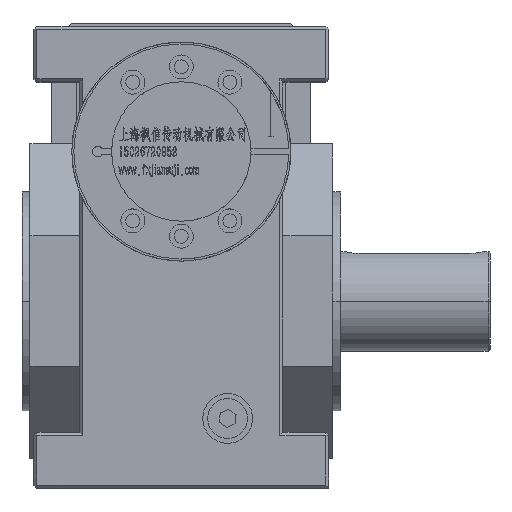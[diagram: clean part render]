
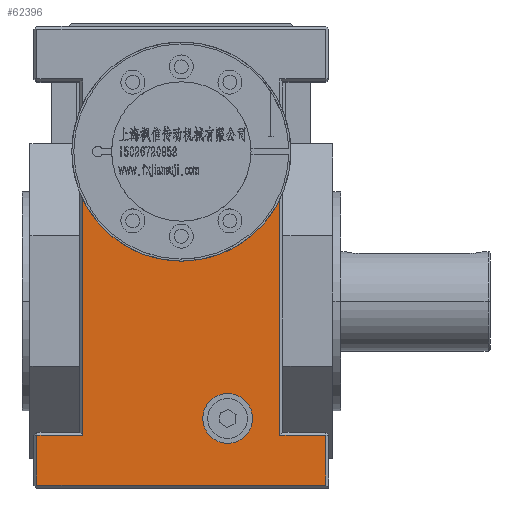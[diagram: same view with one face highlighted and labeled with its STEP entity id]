
A CAD part, top view. The second image highlights one B-rep face of the part: STEP entity #62396.
In plain terms, the highlighted planar face has unit normal (0, 0, 1).
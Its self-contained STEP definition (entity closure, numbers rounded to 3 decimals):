
#1253 = CARTESIAN_POINT ( 'NONE',  ( 74., -67.5, 104. ) ) ;
#2407 = CARTESIAN_POINT ( 'NONE',  ( 23.262, -59., 104. ) ) ;
#3503 = VECTOR ( 'NONE', #87144, 1000. ) ;
#7195 = CARTESIAN_POINT ( 'NONE',  ( 72.5, -67.5, 104. ) ) ;
#7236 = DIRECTION ( 'NONE',  ( 0., -1., 0. ) ) ;
#10324 = ORIENTED_EDGE ( 'NONE', *, *, #26118, .T. ) ;
#10579 = CARTESIAN_POINT ( 'NONE',  ( 49.5, -67.5, 104. ) ) ;
#13549 = VERTEX_POINT ( 'NONE', #92321 ) ;
#13883 = ORIENTED_EDGE ( 'NONE', *, *, #105344, .T. ) ;
#14148 = ORIENTED_EDGE ( 'NONE', *, *, #15056, .T. ) ;
#15056 = EDGE_CURVE ( 'NONE', #51326, #82119, #95753, .T. ) ;
#15226 = CARTESIAN_POINT ( 'NONE',  ( 23.262, -59., 104. ) ) ;
#15440 = EDGE_LOOP ( 'NONE', ( #67681, #87657, #13883, #66103, #87727, #57809, #10324, #14148 ) ) ;
#15562 = FACE_OUTER_BOUND ( 'NONE', #15440, .T. ) ;
#16033 = VERTEX_POINT ( 'NONE', #24619 ) ;
#17807 = DIRECTION ( 'NONE',  ( -1., 0., 0. ) ) ;
#21689 = CARTESIAN_POINT ( 'NONE',  ( -49.5, 51.026, 104. ) ) ;
#22065 = EDGE_CURVE ( 'NONE', #64114, #13549, #53543, .T. ) ;
#22297 = EDGE_LOOP ( 'NONE', ( #45594, #104424 ) ) ;
#24619 = CARTESIAN_POINT ( 'NONE',  ( 49.5, 51.026, 104. ) ) ;
#25269 = FACE_BOUND ( 'NONE', #22297, .T. ) ;
#25300 = CARTESIAN_POINT ( 'NONE',  ( 0., 75., 104. ) ) ;
#25516 = EDGE_CURVE ( 'NONE', #35569, #16033, #51097, .T. ) ;
#26118 = EDGE_CURVE ( 'NONE', #102395, #51326, #77193, .T. ) ;
#27109 = DIRECTION ( 'NONE',  ( 0., 1., 0. ) ) ;
#28523 = VECTOR ( 'NONE', #61928, 1000. ) ;
#29228 = VERTEX_POINT ( 'NONE', #7195 ) ;
#29282 = LINE ( 'NONE', #56754, #85052 ) ;
#29795 = EDGE_CURVE ( 'NONE', #48105, #16033, #105020, .T. ) ;
#33866 = PLANE ( 'NONE',  #103948 ) ;
#35440 = VERTEX_POINT ( 'NONE', #61809 ) ;
#35569 = VERTEX_POINT ( 'NONE', #21689 ) ;
#37357 = DIRECTION ( 'NONE',  ( 0., 0., 1. ) ) ;
#44928 = EDGE_CURVE ( 'NONE', #35569, #102395, #67367, .T. ) ;
#45594 = ORIENTED_EDGE ( 'NONE', *, *, #58042, .F. ) ;
#47419 = CARTESIAN_POINT ( 'NONE',  ( 10.762, -59., 104. ) ) ;
#48105 = VERTEX_POINT ( 'NONE', #10579 ) ;
#48154 = DIRECTION ( 'NONE',  ( 0., 1., 0. ) ) ;
#49746 = DIRECTION ( 'NONE',  ( 1., 0., 0. ) ) ;
#51097 = CIRCLE ( 'NONE', #62013, 55. ) ;
#51139 = CARTESIAN_POINT ( 'NONE',  ( -72.5, -67.5, 104. ) ) ;
#51326 = VERTEX_POINT ( 'NONE', #51139 ) ;
#52187 = CARTESIAN_POINT ( 'NONE',  ( -72.5, 138., 104. ) ) ;
#53543 = CIRCLE ( 'NONE', #92017, 12.5 ) ;
#54476 = LINE ( 'NONE', #1253, #28523 ) ;
#54483 = CARTESIAN_POINT ( 'NONE',  ( -72.5, -92.5, 104. ) ) ;
#56754 = CARTESIAN_POINT ( 'NONE',  ( 72.5, -66., 104. ) ) ;
#57809 = ORIENTED_EDGE ( 'NONE', *, *, #44928, .T. ) ;
#58042 = EDGE_CURVE ( 'NONE', #13549, #64114, #91281, .T. ) ;
#59388 = CARTESIAN_POINT ( 'NONE',  ( -74., -67.5, 104. ) ) ;
#60227 = DIRECTION ( 'NONE',  ( 0., 0., 1. ) ) ;
#61809 = CARTESIAN_POINT ( 'NONE',  ( 72.5, -92.5, 104. ) ) ;
#61928 = DIRECTION ( 'NONE',  ( -1., 0., 0. ) ) ;
#62013 = AXIS2_PLACEMENT_3D ( 'NONE', #25300, #60227, #80275 ) ;
#62396 = ADVANCED_FACE ( 'NONE', ( #25269, #15562 ), #33866, .F. ) ;
#63837 = AXIS2_PLACEMENT_3D ( 'NONE', #15226, #69016, #106227 ) ;
#64114 = VERTEX_POINT ( 'NONE', #47419 ) ;
#66103 = ORIENTED_EDGE ( 'NONE', *, *, #29795, .T. ) ;
#67367 = LINE ( 'NONE', #75984, #102043 ) ;
#67681 = ORIENTED_EDGE ( 'NONE', *, *, #100348, .T. ) ;
#68005 = DIRECTION ( 'NONE',  ( -1., 0., 0. ) ) ;
#69016 = DIRECTION ( 'NONE',  ( 0., 0., 1. ) ) ;
#69368 = CARTESIAN_POINT ( 'NONE',  ( 74., 138., 104. ) ) ;
#70313 = VECTOR ( 'NONE', #49746, 1000. ) ;
#75984 = CARTESIAN_POINT ( 'NONE',  ( -49.5, -66., 104. ) ) ;
#76813 = VECTOR ( 'NONE', #68005, 1000. ) ;
#77193 = LINE ( 'NONE', #59388, #76813 ) ;
#80275 = DIRECTION ( 'NONE',  ( 0., 1., 0. ) ) ;
#82119 = VERTEX_POINT ( 'NONE', #54483 ) ;
#85052 = VECTOR ( 'NONE', #48154, 1000. ) ;
#87127 = DIRECTION ( 'NONE',  ( 0., 0., -1. ) ) ;
#87144 = DIRECTION ( 'NONE',  ( 0., -1., 0. ) ) ;
#87657 = ORIENTED_EDGE ( 'NONE', *, *, #103652, .T. ) ;
#87727 = ORIENTED_EDGE ( 'NONE', *, *, #25516, .F. ) ;
#91281 = CIRCLE ( 'NONE', #63837, 12.5 ) ;
#92017 = AXIS2_PLACEMENT_3D ( 'NONE', #2407, #37357, #99208 ) ;
#92321 = CARTESIAN_POINT ( 'NONE',  ( 35.762, -59., 104. ) ) ;
#93872 = LINE ( 'NONE', #95566, #70313 ) ;
#95566 = CARTESIAN_POINT ( 'NONE',  ( 74., -92.5, 104. ) ) ;
#95753 = LINE ( 'NONE', #52187, #3503 ) ;
#99208 = DIRECTION ( 'NONE',  ( 1., 0., 0. ) ) ;
#100348 = EDGE_CURVE ( 'NONE', #82119, #35440, #93872, .T. ) ;
#102043 = VECTOR ( 'NONE', #7236, 1000. ) ;
#102395 = VERTEX_POINT ( 'NONE', #106184 ) ;
#103652 = EDGE_CURVE ( 'NONE', #35440, #29228, #29282, .T. ) ;
#103948 = AXIS2_PLACEMENT_3D ( 'NONE', #69368, #87127, #17807 ) ;
#104424 = ORIENTED_EDGE ( 'NONE', *, *, #22065, .F. ) ;
#105020 = LINE ( 'NONE', #105589, #111394 ) ;
#105344 = EDGE_CURVE ( 'NONE', #29228, #48105, #54476, .T. ) ;
#105589 = CARTESIAN_POINT ( 'NONE',  ( 49.5, 54.409, 104. ) ) ;
#106184 = CARTESIAN_POINT ( 'NONE',  ( -49.5, -67.5, 104. ) ) ;
#106227 = DIRECTION ( 'NONE',  ( 1., 0., 0. ) ) ;
#111394 = VECTOR ( 'NONE', #27109, 1000. ) ;
